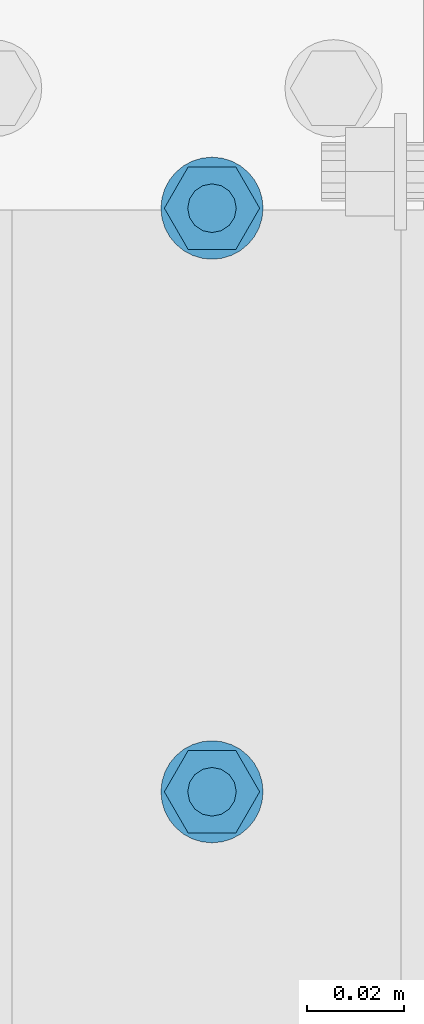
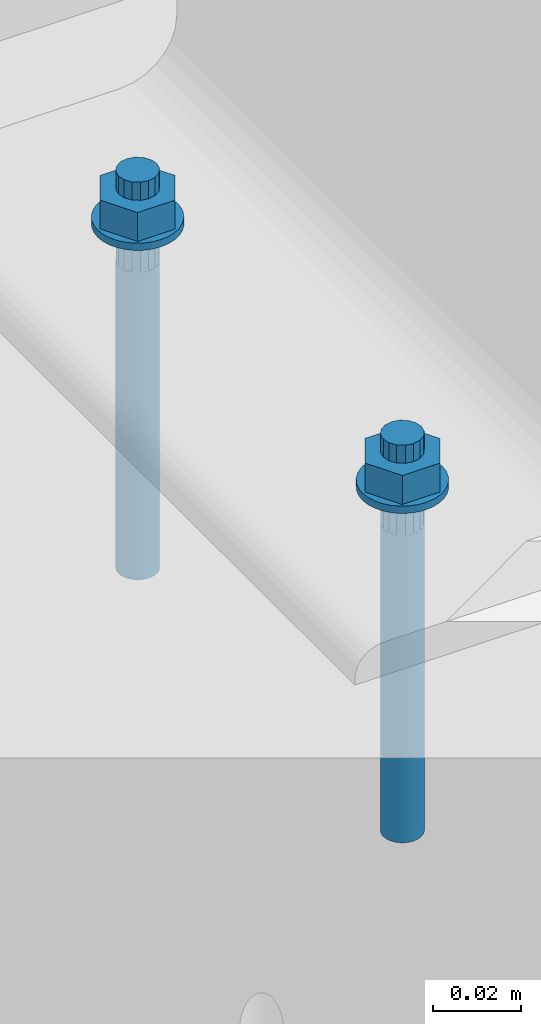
# One storey, part 250 of 476: 1 mechanical fastener.
"""IFC2X3 building model written with IfcOpenShell, lengths in millimetres."""

from ifc_helpers import new_model, entity, si_unit, converted_unit, origin_with_axes, place, context, project, spatial, faceted_brep, element, save


model = new_model("IFC2X3")

# Units and contexts
model_context = context("Model", 3, precision=1e-09, world=origin_with_axes())
ifc_project = project(units=[si_unit("LENGTHUNIT", "METRE", prefix="MILLI"), si_unit("AREAUNIT", "SQUARE_METRE"), si_unit("VOLUMEUNIT", "CUBIC_METRE"), converted_unit("PLANEANGLEUNIT", "DEGREE", entity("IfcPlaneAngleMeasure", 0.01745329), si_unit("PLANEANGLEUNIT", "RADIAN"), dimensions=[0, 0, 0, 0, 0, 0, 0])], contexts=[model_context])

# Site, building, storey
site_placement = place(None, origin_with_axes())
site = spatial("IfcSite", under=ifc_project, at=site_placement, Name="mKR Teilneubau & Sanierung BA1 - Ostfildern", CompositionType="ELEMENT")
building_placement = place(site_placement, origin_with_axes())
building = spatial("IfcBuilding", under=site, at=building_placement, Name="Struktur 1", CompositionType="ELEMENT")
storey_placement = place(building_placement, origin_with_axes())
storey = spatial("IfcBuildingStorey", under=building, at=storey_placement, Name="Default Storey", CompositionType="ELEMENT", Elevation=0.0)

# Mechanical fastener
mechanical_fastener_placement = place(None, origin_with_axes())
element("IfcMechanicalFastener", 1, at=mechanical_fastener_placement, inside=storey, ObjectType="-", NominalDiameter=10.0, NominalLength=110.0, context=model_context, shape_type="Brep", body=[
    faceted_brep([(21982.108764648, -2308.262326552, 510.0), (21982.108764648, -2308.262326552, 512.0), (21984.15721303, -2308.464081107, 512.0), (21984.15721303, -2308.464081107, 510.0), (21986.126940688, -2309.06159146, 512.0), (21986.126940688, -2309.06159146, 510.0), (21987.942252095, -2310.031895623, 512.0), (21987.942252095, -2310.031895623, 510.0), (21989.533385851, -2311.337705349, 512.0), (21989.533385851, -2311.337705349, 510.0), (21990.839195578, -2312.928839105, 512.0), (21990.839195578, -2312.928839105, 510.0), (21991.80949974, -2314.744150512, 512.0), (21991.80949974, -2314.744150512, 510.0), (21992.407010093, -2316.713878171, 512.0), (21992.407010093, -2316.713878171, 510.0), (21992.608764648, -2318.762326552, 512.0), (21992.608764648, -2318.762326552, 510.0), (21992.407010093, -2320.810774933, 512.0), (21992.407010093, -2320.810774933, 510.0), (21991.80949974, -2322.780502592, 512.0), (21991.80949974, -2322.780502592, 510.0), (21990.839195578, -2324.595813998, 512.0), (21990.839195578, -2324.595813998, 510.0), (21989.533385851, -2326.186947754, 512.0), (21989.533385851, -2326.186947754, 510.0), (21987.942252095, -2327.492757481, 512.0), (21987.942252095, -2327.492757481, 510.0), (21986.126940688, -2328.463061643, 512.0), (21986.126940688, -2328.463061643, 510.0), (21984.15721303, -2329.060571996, 512.0), (21984.15721303, -2329.060571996, 510.0), (21982.108764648, -2329.262326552, 512.0), (21982.108764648, -2329.262326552, 510.0), (21980.060316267, -2329.060571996, 512.0), (21980.060316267, -2329.060571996, 510.0), (21978.090588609, -2328.463061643, 512.0), (21978.090588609, -2328.463061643, 510.0), (21976.275277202, -2327.492757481, 512.0), (21976.275277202, -2327.492757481, 510.0), (21974.684143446, -2326.186947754, 512.0), (21974.684143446, -2326.186947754, 510.0), (21973.378333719, -2324.595813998, 512.0), (21973.378333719, -2324.595813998, 510.0), (21972.408029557, -2322.780502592, 512.0), (21972.408029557, -2322.780502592, 510.0), (21971.810519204, -2320.810774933, 512.0), (21971.810519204, -2320.810774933, 510.0), (21971.608764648, -2318.762326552, 512.0), (21971.608764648, -2318.762326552, 510.0), (21971.810519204, -2316.713878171, 512.0), (21971.810519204, -2316.713878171, 510.0), (21972.408029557, -2314.744150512, 512.0), (21972.408029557, -2314.744150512, 510.0), (21973.378333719, -2312.928839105, 512.0), (21973.378333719, -2312.928839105, 510.0), (21974.684143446, -2311.337705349, 512.0), (21974.684143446, -2311.337705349, 510.0), (21976.275277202, -2310.031895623, 512.0), (21976.275277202, -2310.031895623, 510.0), (21978.090588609, -2309.06159146, 512.0), (21978.090588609, -2309.06159146, 510.0), (21980.060316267, -2308.464081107, 512.0), (21980.060316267, -2308.464081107, 510.0)], [[[0, 1, 2, 3]], [[3, 2, 4, 5]], [[5, 4, 6, 7]], [[7, 6, 8, 9]], [[9, 8, 10, 11]], [[11, 10, 12, 13]], [[13, 12, 14, 15]], [[15, 14, 16, 17]], [[17, 16, 18, 19]], [[19, 18, 20, 21]], [[21, 20, 22, 23]], [[23, 22, 24, 25]], [[25, 24, 26, 27]], [[27, 26, 28, 29]], [[29, 28, 30, 31]], [[31, 30, 32, 33]], [[33, 32, 34, 35]], [[35, 34, 36, 37]], [[37, 36, 38, 39]], [[39, 38, 40, 41]], [[41, 40, 42, 43]], [[43, 42, 44, 45]], [[45, 44, 46, 47]], [[47, 46, 48, 49]], [[49, 48, 50, 51]], [[51, 50, 52, 53]], [[53, 52, 54, 55]], [[55, 54, 56, 57]], [[57, 56, 58, 59]], [[59, 58, 60, 61]], [[61, 60, 62, 63]], [[63, 62, 1, 0]], [[2, 1, 62, 60, 58, 56, 54, 52, 50, 48, 46, 44, 42, 40, 38, 36, 34, 32, 30, 28, 26, 24, 22, 20, 18, 16, 14, 12, 10, 8, 6, 4]], [[63, 0, 3, 5, 7, 9, 11, 13, 15, 17, 19, 21, 23, 25, 27, 29, 31, 33, 35, 37, 39, 41, 43, 45, 47, 49, 51, 53, 55, 57, 59, 61]]]),
    faceted_brep([(21982.108764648, -2188.262326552, 510.0), (21982.108764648, -2188.262326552, 512.0), (21984.15721303, -2188.464081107, 512.0), (21984.15721303, -2188.464081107, 510.0), (21986.126940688, -2189.06159146, 512.0), (21986.126940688, -2189.06159146, 510.0), (21987.942252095, -2190.031895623, 512.0), (21987.942252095, -2190.031895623, 510.0), (21989.533385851, -2191.337705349, 512.0), (21989.533385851, -2191.337705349, 510.0), (21990.839195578, -2192.928839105, 512.0), (21990.839195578, -2192.928839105, 510.0), (21991.80949974, -2194.744150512, 512.0), (21991.80949974, -2194.744150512, 510.0), (21992.407010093, -2196.713878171, 512.0), (21992.407010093, -2196.713878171, 510.0), (21992.608764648, -2198.762326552, 512.0), (21992.608764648, -2198.762326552, 510.0), (21992.407010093, -2200.810774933, 512.0), (21992.407010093, -2200.810774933, 510.0), (21991.80949974, -2202.780502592, 512.0), (21991.80949974, -2202.780502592, 510.0), (21990.839195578, -2204.595813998, 512.0), (21990.839195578, -2204.595813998, 510.0), (21989.533385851, -2206.186947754, 512.0), (21989.533385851, -2206.186947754, 510.0), (21987.942252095, -2207.492757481, 512.0), (21987.942252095, -2207.492757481, 510.0), (21986.126940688, -2208.463061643, 512.0), (21986.126940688, -2208.463061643, 510.0), (21984.15721303, -2209.060571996, 512.0), (21984.15721303, -2209.060571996, 510.0), (21982.108764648, -2209.262326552, 512.0), (21982.108764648, -2209.262326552, 510.0), (21980.060316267, -2209.060571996, 512.0), (21980.060316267, -2209.060571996, 510.0), (21978.090588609, -2208.463061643, 512.0), (21978.090588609, -2208.463061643, 510.0), (21976.275277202, -2207.492757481, 512.0), (21976.275277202, -2207.492757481, 510.0), (21974.684143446, -2206.186947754, 512.0), (21974.684143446, -2206.186947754, 510.0), (21973.378333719, -2204.595813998, 512.0), (21973.378333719, -2204.595813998, 510.0), (21972.408029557, -2202.780502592, 512.0), (21972.408029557, -2202.780502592, 510.0), (21971.810519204, -2200.810774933, 512.0), (21971.810519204, -2200.810774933, 510.0), (21971.608764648, -2198.762326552, 512.0), (21971.608764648, -2198.762326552, 510.0), (21971.810519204, -2196.713878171, 512.0), (21971.810519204, -2196.713878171, 510.0), (21972.408029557, -2194.744150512, 512.0), (21972.408029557, -2194.744150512, 510.0), (21973.378333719, -2192.928839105, 512.0), (21973.378333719, -2192.928839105, 510.0), (21974.684143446, -2191.337705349, 512.0), (21974.684143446, -2191.337705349, 510.0), (21976.275277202, -2190.031895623, 512.0), (21976.275277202, -2190.031895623, 510.0), (21978.090588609, -2189.06159146, 512.0), (21978.090588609, -2189.06159146, 510.0), (21980.060316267, -2188.464081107, 512.0), (21980.060316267, -2188.464081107, 510.0)], [[[0, 1, 2, 3]], [[3, 2, 4, 5]], [[5, 4, 6, 7]], [[7, 6, 8, 9]], [[9, 8, 10, 11]], [[11, 10, 12, 13]], [[13, 12, 14, 15]], [[15, 14, 16, 17]], [[17, 16, 18, 19]], [[19, 18, 20, 21]], [[21, 20, 22, 23]], [[23, 22, 24, 25]], [[25, 24, 26, 27]], [[27, 26, 28, 29]], [[29, 28, 30, 31]], [[31, 30, 32, 33]], [[33, 32, 34, 35]], [[35, 34, 36, 37]], [[37, 36, 38, 39]], [[39, 38, 40, 41]], [[41, 40, 42, 43]], [[43, 42, 44, 45]], [[45, 44, 46, 47]], [[47, 46, 48, 49]], [[49, 48, 50, 51]], [[51, 50, 52, 53]], [[53, 52, 54, 55]], [[55, 54, 56, 57]], [[57, 56, 58, 59]], [[59, 58, 60, 61]], [[61, 60, 62, 63]], [[63, 62, 1, 0]], [[2, 1, 62, 60, 58, 56, 54, 52, 50, 48, 46, 44, 42, 40, 38, 36, 34, 32, 30, 28, 26, 24, 22, 20, 18, 16, 14, 12, 10, 8, 6, 4]], [[63, 0, 3, 5, 7, 9, 11, 13, 15, 17, 19, 21, 23, 25, 27, 29, 31, 33, 35, 37, 39, 41, 43, 45, 47, 49, 51, 53, 55, 57, 59, 61]]]),
    faceted_brep([(21987.008764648, -2327.249375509, 520.0), (21987.008764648, -2327.249375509, 512.0), (21991.908764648, -2318.762326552, 512.0), (21991.908764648, -2318.762326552, 520.0), (21987.008764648, -2310.275277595, 512.0), (21987.008764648, -2310.275277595, 520.0), (21977.208764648, -2310.275277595, 512.0), (21977.208764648, -2310.275277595, 520.0), (21972.308764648, -2318.762326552, 512.0), (21972.308764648, -2318.762326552, 520.0), (21977.208764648, -2327.249375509, 512.0), (21977.208764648, -2327.249375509, 520.0)], [[[0, 1, 2, 3]], [[3, 2, 4, 5]], [[5, 4, 6, 7]], [[7, 6, 8, 9]], [[9, 8, 10, 11]], [[11, 10, 1, 0]], [[3, 5, 7, 9, 11, 0]], [[2, 1, 10, 8, 6, 4]]]),
    faceted_brep([(21987.008764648, -2207.249375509, 520.0), (21987.008764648, -2207.249375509, 512.0), (21991.908764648, -2198.762326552, 512.0), (21991.908764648, -2198.762326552, 520.0), (21987.008764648, -2190.275277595, 512.0), (21987.008764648, -2190.275277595, 520.0), (21977.208764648, -2190.275277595, 512.0), (21977.208764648, -2190.275277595, 520.0), (21972.308764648, -2198.762326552, 512.0), (21972.308764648, -2198.762326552, 520.0), (21977.208764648, -2207.249375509, 512.0), (21977.208764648, -2207.249375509, 520.0)], [[[0, 1, 2, 3]], [[3, 2, 4, 5]], [[5, 4, 6, 7]], [[7, 6, 8, 9]], [[9, 8, 10, 11]], [[11, 10, 1, 0]], [[3, 5, 7, 9, 11, 0]], [[2, 1, 10, 8, 6, 4]]]),
    faceted_brep([(21982.108764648, -2313.762326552, 520.0), (21982.108764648, -2313.762326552, 525.0), (21984.02218181, -2314.142928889, 525.0), (21984.02218181, -2314.142928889, 520.0), (21985.644298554, -2315.226792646, 525.0), (21985.644298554, -2315.226792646, 520.0), (21986.728162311, -2316.84890939, 525.0), (21986.728162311, -2316.84890939, 520.0), (21987.108764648, -2318.762326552, 525.0), (21987.108764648, -2318.762326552, 520.0), (21986.728162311, -2320.675743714, 525.0), (21986.728162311, -2320.675743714, 520.0), (21985.644298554, -2322.297860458, 525.0), (21985.644298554, -2322.297860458, 520.0), (21984.02218181, -2323.381724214, 525.0), (21984.02218181, -2323.381724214, 520.0), (21982.108764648, -2323.762326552, 525.0), (21982.108764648, -2323.762326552, 520.0), (21980.195347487, -2323.381724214, 525.0), (21980.195347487, -2323.381724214, 520.0), (21978.573230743, -2322.297860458, 525.0), (21978.573230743, -2322.297860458, 520.0), (21977.489366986, -2320.675743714, 525.0), (21977.489366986, -2320.675743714, 520.0), (21977.108764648, -2318.762326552, 525.0), (21977.108764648, -2318.762326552, 520.0), (21977.489366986, -2316.84890939, 525.0), (21977.489366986, -2316.84890939, 520.0), (21978.573230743, -2315.226792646, 525.0), (21978.573230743, -2315.226792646, 520.0), (21980.195347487, -2314.142928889, 525.0), (21980.195347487, -2314.142928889, 520.0)], [[[0, 1, 2, 3]], [[3, 2, 4, 5]], [[5, 4, 6, 7]], [[7, 6, 8, 9]], [[9, 8, 10, 11]], [[11, 10, 12, 13]], [[13, 12, 14, 15]], [[15, 14, 16, 17]], [[17, 16, 18, 19]], [[19, 18, 20, 21]], [[21, 20, 22, 23]], [[23, 22, 24, 25]], [[25, 24, 26, 27]], [[27, 26, 28, 29]], [[29, 28, 30, 31]], [[31, 30, 1, 0]], [[2, 1, 30, 28, 26, 24, 22, 20, 18, 16, 14, 12, 10, 8, 6, 4]], [[31, 0, 3, 5, 7, 9, 11, 13, 15, 17, 19, 21, 23, 25, 27, 29]]]),
    faceted_brep([(21982.108764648, -2193.762326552, 520.0), (21982.108764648, -2193.762326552, 525.0), (21984.02218181, -2194.142928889, 525.0), (21984.02218181, -2194.142928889, 520.0), (21985.644298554, -2195.226792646, 525.0), (21985.644298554, -2195.226792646, 520.0), (21986.728162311, -2196.84890939, 525.0), (21986.728162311, -2196.84890939, 520.0), (21987.108764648, -2198.762326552, 525.0), (21987.108764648, -2198.762326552, 520.0), (21986.728162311, -2200.675743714, 525.0), (21986.728162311, -2200.675743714, 520.0), (21985.644298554, -2202.297860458, 525.0), (21985.644298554, -2202.297860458, 520.0), (21984.02218181, -2203.381724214, 525.0), (21984.02218181, -2203.381724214, 520.0), (21982.108764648, -2203.762326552, 525.0), (21982.108764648, -2203.762326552, 520.0), (21980.195347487, -2203.381724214, 525.0), (21980.195347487, -2203.381724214, 520.0), (21978.573230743, -2202.297860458, 525.0), (21978.573230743, -2202.297860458, 520.0), (21977.489366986, -2200.675743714, 525.0), (21977.489366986, -2200.675743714, 520.0), (21977.108764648, -2198.762326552, 525.0), (21977.108764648, -2198.762326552, 520.0), (21977.489366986, -2196.84890939, 525.0), (21977.489366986, -2196.84890939, 520.0), (21978.573230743, -2195.226792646, 525.0), (21978.573230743, -2195.226792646, 520.0), (21980.195347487, -2194.142928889, 525.0), (21980.195347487, -2194.142928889, 520.0)], [[[0, 1, 2, 3]], [[3, 2, 4, 5]], [[5, 4, 6, 7]], [[7, 6, 8, 9]], [[9, 8, 10, 11]], [[11, 10, 12, 13]], [[13, 12, 14, 15]], [[15, 14, 16, 17]], [[17, 16, 18, 19]], [[19, 18, 20, 21]], [[21, 20, 22, 23]], [[23, 22, 24, 25]], [[25, 24, 26, 27]], [[27, 26, 28, 29]], [[29, 28, 30, 31]], [[31, 30, 1, 0]], [[2, 1, 30, 28, 26, 24, 22, 20, 18, 16, 14, 12, 10, 8, 6, 4]], [[31, 0, 3, 5, 7, 9, 11, 13, 15, 17, 19, 21, 23, 25, 27, 29]]]),
    faceted_brep([(21982.108764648, -2313.762326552, 500.0), (21982.108764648, -2313.762326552, 510.0), (21984.02218181, -2314.142928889, 510.0), (21984.02218181, -2314.142928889, 500.0), (21985.644298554, -2315.226792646, 510.0), (21985.644298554, -2315.226792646, 500.0), (21986.728162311, -2316.84890939, 510.0), (21986.728162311, -2316.84890939, 500.0), (21987.108764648, -2318.762326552, 510.0), (21987.108764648, -2318.762326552, 500.0), (21986.728162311, -2320.675743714, 510.0), (21986.728162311, -2320.675743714, 500.0), (21985.644298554, -2322.297860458, 510.0), (21985.644298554, -2322.297860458, 500.0), (21984.02218181, -2323.381724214, 510.0), (21984.02218181, -2323.381724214, 500.0), (21982.108764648, -2323.762326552, 510.0), (21982.108764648, -2323.762326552, 500.0), (21980.195347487, -2323.381724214, 510.0), (21980.195347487, -2323.381724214, 500.0), (21978.573230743, -2322.297860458, 510.0), (21978.573230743, -2322.297860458, 500.0), (21977.489366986, -2320.675743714, 510.0), (21977.489366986, -2320.675743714, 500.0), (21977.108764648, -2318.762326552, 510.0), (21977.108764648, -2318.762326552, 500.0), (21977.489366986, -2316.84890939, 510.0), (21977.489366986, -2316.84890939, 500.0), (21978.573230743, -2315.226792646, 510.0), (21978.573230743, -2315.226792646, 500.0), (21980.195347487, -2314.142928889, 510.0), (21980.195347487, -2314.142928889, 500.0)], [[[0, 1, 2, 3]], [[3, 2, 4, 5]], [[5, 4, 6, 7]], [[7, 6, 8, 9]], [[9, 8, 10, 11]], [[11, 10, 12, 13]], [[13, 12, 14, 15]], [[15, 14, 16, 17]], [[17, 16, 18, 19]], [[19, 18, 20, 21]], [[21, 20, 22, 23]], [[23, 22, 24, 25]], [[25, 24, 26, 27]], [[27, 26, 28, 29]], [[29, 28, 30, 31]], [[31, 30, 1, 0]], [[2, 1, 30, 28, 26, 24, 22, 20, 18, 16, 14, 12, 10, 8, 6, 4]], [[31, 0, 3, 5, 7, 9, 11, 13, 15, 17, 19, 21, 23, 25, 27, 29]]]),
    faceted_brep([(21982.108764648, -2193.762326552, 500.0), (21982.108764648, -2193.762326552, 510.0), (21984.02218181, -2194.142928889, 510.0), (21984.02218181, -2194.142928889, 500.0), (21985.644298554, -2195.226792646, 510.0), (21985.644298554, -2195.226792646, 500.0), (21986.728162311, -2196.84890939, 510.0), (21986.728162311, -2196.84890939, 500.0), (21987.108764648, -2198.762326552, 510.0), (21987.108764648, -2198.762326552, 500.0), (21986.728162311, -2200.675743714, 510.0), (21986.728162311, -2200.675743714, 500.0), (21985.644298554, -2202.297860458, 510.0), (21985.644298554, -2202.297860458, 500.0), (21984.02218181, -2203.381724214, 510.0), (21984.02218181, -2203.381724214, 500.0), (21982.108764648, -2203.762326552, 510.0), (21982.108764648, -2203.762326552, 500.0), (21980.195347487, -2203.381724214, 510.0), (21980.195347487, -2203.381724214, 500.0), (21978.573230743, -2202.297860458, 510.0), (21978.573230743, -2202.297860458, 500.0), (21977.489366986, -2200.675743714, 510.0), (21977.489366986, -2200.675743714, 500.0), (21977.108764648, -2198.762326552, 510.0), (21977.108764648, -2198.762326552, 500.0), (21977.489366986, -2196.84890939, 510.0), (21977.489366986, -2196.84890939, 500.0), (21978.573230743, -2195.226792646, 510.0), (21978.573230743, -2195.226792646, 500.0), (21980.195347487, -2194.142928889, 510.0), (21980.195347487, -2194.142928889, 500.0)], [[[0, 1, 2, 3]], [[3, 2, 4, 5]], [[5, 4, 6, 7]], [[7, 6, 8, 9]], [[9, 8, 10, 11]], [[11, 10, 12, 13]], [[13, 12, 14, 15]], [[15, 14, 16, 17]], [[17, 16, 18, 19]], [[19, 18, 20, 21]], [[21, 20, 22, 23]], [[23, 22, 24, 25]], [[25, 24, 26, 27]], [[27, 26, 28, 29]], [[29, 28, 30, 31]], [[31, 30, 1, 0]], [[2, 1, 30, 28, 26, 24, 22, 20, 18, 16, 14, 12, 10, 8, 6, 4]], [[31, 0, 3, 5, 7, 9, 11, 13, 15, 17, 19, 21, 23, 25, 27, 29]]]),
    faceted_brep([(21982.108764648, -2313.762326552, 415.0), (21982.108764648, -2313.762326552, 500.0), (21983.084216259, -2313.85840015, 500.0), (21983.084216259, -2313.85840015, 415.0), (21984.02218181, -2314.142928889, 500.0), (21984.02218181, -2314.142928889, 415.0), (21984.886615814, -2314.60497849, 500.0), (21984.886615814, -2314.60497849, 415.0), (21985.644298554, -2315.226792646, 500.0), (21985.644298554, -2315.226792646, 415.0), (21986.26611271, -2315.984475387, 500.0), (21986.26611271, -2315.984475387, 415.0), (21986.728162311, -2316.84890939, 500.0), (21986.728162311, -2316.84890939, 415.0), (21987.01269105, -2317.786874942, 500.0), (21987.01269105, -2317.786874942, 415.0), (21987.108764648, -2318.762326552, 500.0), (21987.108764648, -2318.762326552, 415.0), (21987.01269105, -2319.737778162, 500.0), (21987.01269105, -2319.737778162, 415.0), (21986.728162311, -2320.675743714, 500.0), (21986.728162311, -2320.675743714, 415.0), (21986.26611271, -2321.540177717, 500.0), (21986.26611271, -2321.540177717, 415.0), (21985.644298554, -2322.297860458, 500.0), (21985.644298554, -2322.297860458, 415.0), (21984.886615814, -2322.919674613, 500.0), (21984.886615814, -2322.919674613, 415.0), (21984.02218181, -2323.381724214, 500.0), (21984.02218181, -2323.381724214, 415.0), (21983.084216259, -2323.666252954, 500.0), (21983.084216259, -2323.666252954, 415.0), (21982.108764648, -2323.762326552, 500.0), (21982.108764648, -2323.762326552, 415.0), (21981.133313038, -2323.666252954, 500.0), (21981.133313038, -2323.666252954, 415.0), (21980.195347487, -2323.381724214, 500.0), (21980.195347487, -2323.381724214, 415.0), (21979.330913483, -2322.919674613, 500.0), (21979.330913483, -2322.919674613, 415.0), (21978.573230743, -2322.297860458, 500.0), (21978.573230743, -2322.297860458, 415.0), (21977.951416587, -2321.540177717, 500.0), (21977.951416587, -2321.540177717, 415.0), (21977.489366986, -2320.675743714, 500.0), (21977.489366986, -2320.675743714, 415.0), (21977.204838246, -2319.737778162, 500.0), (21977.204838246, -2319.737778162, 415.0), (21977.108764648, -2318.762326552, 500.0), (21977.108764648, -2318.762326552, 415.0), (21977.204838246, -2317.786874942, 500.0), (21977.204838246, -2317.786874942, 415.0), (21977.489366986, -2316.84890939, 500.0), (21977.489366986, -2316.84890939, 415.0), (21977.951416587, -2315.984475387, 500.0), (21977.951416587, -2315.984475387, 415.0), (21978.573230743, -2315.226792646, 500.0), (21978.573230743, -2315.226792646, 415.0), (21979.330913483, -2314.60497849, 500.0), (21979.330913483, -2314.60497849, 415.0), (21980.195347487, -2314.142928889, 500.0), (21980.195347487, -2314.142928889, 415.0), (21981.133313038, -2313.85840015, 500.0), (21981.133313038, -2313.85840015, 415.0)], [[[0, 1, 2, 3]], [[3, 2, 4, 5]], [[5, 4, 6, 7]], [[7, 6, 8, 9]], [[9, 8, 10, 11]], [[11, 10, 12, 13]], [[13, 12, 14, 15]], [[15, 14, 16, 17]], [[17, 16, 18, 19]], [[19, 18, 20, 21]], [[21, 20, 22, 23]], [[23, 22, 24, 25]], [[25, 24, 26, 27]], [[27, 26, 28, 29]], [[29, 28, 30, 31]], [[31, 30, 32, 33]], [[33, 32, 34, 35]], [[35, 34, 36, 37]], [[37, 36, 38, 39]], [[39, 38, 40, 41]], [[41, 40, 42, 43]], [[43, 42, 44, 45]], [[45, 44, 46, 47]], [[47, 46, 48, 49]], [[49, 48, 50, 51]], [[51, 50, 52, 53]], [[53, 52, 54, 55]], [[55, 54, 56, 57]], [[57, 56, 58, 59]], [[59, 58, 60, 61]], [[61, 60, 62, 63]], [[63, 62, 1, 0]], [[2, 1, 62, 60, 58, 56, 54, 52, 50, 48, 46, 44, 42, 40, 38, 36, 34, 32, 30, 28, 26, 24, 22, 20, 18, 16, 14, 12, 10, 8, 6, 4]], [[63, 0, 3, 5, 7, 9, 11, 13, 15, 17, 19, 21, 23, 25, 27, 29, 31, 33, 35, 37, 39, 41, 43, 45, 47, 49, 51, 53, 55, 57, 59, 61]]]),
    faceted_brep([(21982.108764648, -2193.762326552, 415.0), (21982.108764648, -2193.762326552, 500.0), (21983.084216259, -2193.85840015, 500.0), (21983.084216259, -2193.85840015, 415.0), (21984.02218181, -2194.142928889, 500.0), (21984.02218181, -2194.142928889, 415.0), (21984.886615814, -2194.60497849, 500.0), (21984.886615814, -2194.60497849, 415.0), (21985.644298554, -2195.226792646, 500.0), (21985.644298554, -2195.226792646, 415.0), (21986.26611271, -2195.984475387, 500.0), (21986.26611271, -2195.984475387, 415.0), (21986.728162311, -2196.84890939, 500.0), (21986.728162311, -2196.84890939, 415.0), (21987.01269105, -2197.786874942, 500.0), (21987.01269105, -2197.786874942, 415.0), (21987.108764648, -2198.762326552, 500.0), (21987.108764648, -2198.762326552, 415.0), (21987.01269105, -2199.737778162, 500.0), (21987.01269105, -2199.737778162, 415.0), (21986.728162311, -2200.675743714, 500.0), (21986.728162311, -2200.675743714, 415.0), (21986.26611271, -2201.540177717, 500.0), (21986.26611271, -2201.540177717, 415.0), (21985.644298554, -2202.297860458, 500.0), (21985.644298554, -2202.297860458, 415.0), (21984.886615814, -2202.919674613, 500.0), (21984.886615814, -2202.919674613, 415.0), (21984.02218181, -2203.381724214, 500.0), (21984.02218181, -2203.381724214, 415.0), (21983.084216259, -2203.666252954, 500.0), (21983.084216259, -2203.666252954, 415.0), (21982.108764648, -2203.762326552, 500.0), (21982.108764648, -2203.762326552, 415.0), (21981.133313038, -2203.666252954, 500.0), (21981.133313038, -2203.666252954, 415.0), (21980.195347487, -2203.381724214, 500.0), (21980.195347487, -2203.381724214, 415.0), (21979.330913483, -2202.919674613, 500.0), (21979.330913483, -2202.919674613, 415.0), (21978.573230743, -2202.297860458, 500.0), (21978.573230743, -2202.297860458, 415.0), (21977.951416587, -2201.540177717, 500.0), (21977.951416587, -2201.540177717, 415.0), (21977.489366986, -2200.675743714, 500.0), (21977.489366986, -2200.675743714, 415.0), (21977.204838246, -2199.737778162, 500.0), (21977.204838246, -2199.737778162, 415.0), (21977.108764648, -2198.762326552, 500.0), (21977.108764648, -2198.762326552, 415.0), (21977.204838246, -2197.786874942, 500.0), (21977.204838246, -2197.786874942, 415.0), (21977.489366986, -2196.84890939, 500.0), (21977.489366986, -2196.84890939, 415.0), (21977.951416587, -2195.984475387, 500.0), (21977.951416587, -2195.984475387, 415.0), (21978.573230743, -2195.226792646, 500.0), (21978.573230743, -2195.226792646, 415.0), (21979.330913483, -2194.60497849, 500.0), (21979.330913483, -2194.60497849, 415.0), (21980.195347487, -2194.142928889, 500.0), (21980.195347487, -2194.142928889, 415.0), (21981.133313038, -2193.85840015, 500.0), (21981.133313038, -2193.85840015, 415.0)], [[[0, 1, 2, 3]], [[3, 2, 4, 5]], [[5, 4, 6, 7]], [[7, 6, 8, 9]], [[9, 8, 10, 11]], [[11, 10, 12, 13]], [[13, 12, 14, 15]], [[15, 14, 16, 17]], [[17, 16, 18, 19]], [[19, 18, 20, 21]], [[21, 20, 22, 23]], [[23, 22, 24, 25]], [[25, 24, 26, 27]], [[27, 26, 28, 29]], [[29, 28, 30, 31]], [[31, 30, 32, 33]], [[33, 32, 34, 35]], [[35, 34, 36, 37]], [[37, 36, 38, 39]], [[39, 38, 40, 41]], [[41, 40, 42, 43]], [[43, 42, 44, 45]], [[45, 44, 46, 47]], [[47, 46, 48, 49]], [[49, 48, 50, 51]], [[51, 50, 52, 53]], [[53, 52, 54, 55]], [[55, 54, 56, 57]], [[57, 56, 58, 59]], [[59, 58, 60, 61]], [[61, 60, 62, 63]], [[63, 62, 1, 0]], [[2, 1, 62, 60, 58, 56, 54, 52, 50, 48, 46, 44, 42, 40, 38, 36, 34, 32, 30, 28, 26, 24, 22, 20, 18, 16, 14, 12, 10, 8, 6, 4]], [[63, 0, 3, 5, 7, 9, 11, 13, 15, 17, 19, 21, 23, 25, 27, 29, 31, 33, 35, 37, 39, 41, 43, 45, 47, 49, 51, 53, 55, 57, 59, 61]]]),
])

save(model, "model.ifc")
